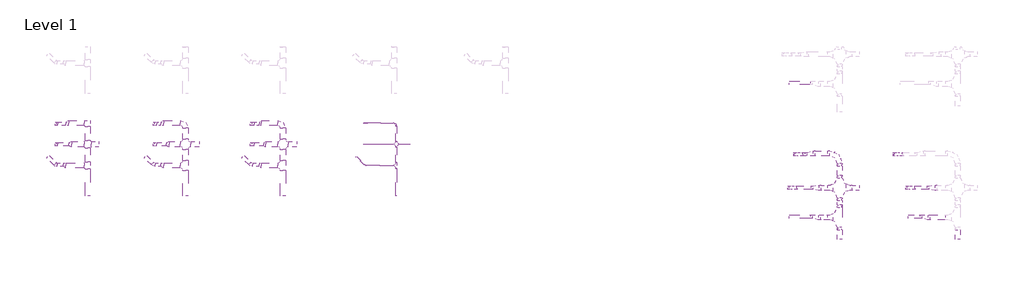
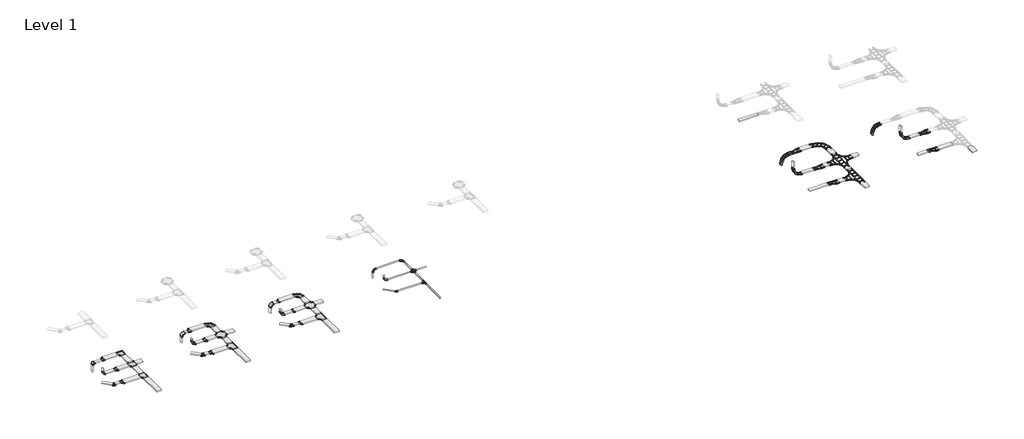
# One storey, part 1 of 42: 68 cable carrier segments, 45 cable carrier fittings.
"""IFC4 building model written with IfcOpenShell, lengths in millimetres."""

from ifc_helpers import new_model, si_unit, frame, origin, place, context, project, spatial, polyline, outline, extrude, transform, mapped, element, save
from components import cable_carrier_fitting_1_mm_805de479, cable_carrier_fitting_1_mm_529289f4, cable_carrier_fitting_1_mm_c1197fce, cable_carrier_fitting_1_mm_5924018d, cable_carrier_fitting_1_mm_d3f2b815, cable_carrier_fitting_1_mm_367de262, cable_carrier_fitting_1_mm_a7febe8f, cable_carrier_fitting_1_mm_fc54f34e, cable_carrier_fitting_1_mm_42b71fda, cable_carrier_fitting_1_mm_1f89d0ee, cable_carrier_fitting_1_mm_ffd8b238, cable_carrier_fitting_1_mm_e192c5dd, cable_carrier_fitting_1_mm_2a07449b, cable_carrier_fitting_1_mm_ec8e8cbd, cable_carrier_fitting_1_mm_52b8fae2, cable_carrier_fitting_1_mm_346cbc13, cable_carrier_fitting_1_mm_92de7dbe, cable_carrier_fitting_1_mm_02684e42, cable_carrier_fitting_1_mm_cfe8fd75, cable_carrier_fitting_1_mm_447bc4b9, cable_carrier_fitting_1_mm_be7f07a0, cable_carrier_fitting_1_mm_44e0f4b3, cable_carrier_fitting_1_5_mm_cc8ef015, cable_carrier_fitting_1_5_mm_7721eeaa, cable_carrier_fitting_1_5_mm_3523910d, cable_carrier_fitting_1_5_mm_74426db5, cable_carrier_fitting_1_5_mm_ccf48cd3, cable_carrier_fitting_1_5_mm_c053843e, cable_carrier_fitting_1_5_mm_0168b917, cable_carrier_fitting_1_5_mm_8b0a73e9, cable_carrier_fitting_1_5_mm_19f47176

model = new_model("IFC4")

# Units and contexts
model_context = context("Model", 3, world=origin())
ifc_project = project(units=[si_unit("LENGTHUNIT", "METRE", prefix="MILLI")], contexts=[model_context])

# Site, building, storey
site = spatial("IfcSite", under=ifc_project)
building = spatial("IfcBuilding", under=site)
storey = spatial("IfcBuildingStorey", under=building, Name="Level 1", Elevation=0.0)

# Cable carrier fittings
placement = place(None, origin())
cable_carrier_fitting_1_mm_shape = cable_carrier_fitting_1_mm_805de479(model_context)
element("IfcCableCarrierFitting", 1, ObjectType="BAKS_Redukcja E90 : 1 mm", at=placement, inside=storey, context=model_context, shape_type="MappedRepresentation", body=[
    mapped(cable_carrier_fitting_1_mm_shape, transform((-14922.2064802, -3637.2738582, 2750.0), x_axis=(1.0, 0.0, 0.0), y_axis=(0.0, 1.0, 0.0), z_axis=(0.0, 0.0, 1.0))),
])
cable_carrier_fitting_1_mm_2_shape = cable_carrier_fitting_1_mm_529289f4(model_context)
element("IfcCableCarrierFitting", 2, ObjectType="BAKS_Redukcja E90 : 1 mm", at=placement, inside=storey, context=model_context, shape_type="MappedRepresentation", body=[
    mapped(cable_carrier_fitting_1_mm_2_shape, transform((-15082.2064802, -2419.2826006, 2750.0), x_axis=(-1.0, 0.0, 0.0), y_axis=(0.0, -1.0, 0.0), z_axis=(0.0, 0.0, 1.0))),
])
cable_carrier_fitting_1_mm_3_shape = cable_carrier_fitting_1_mm_c1197fce(model_context)
element("IfcCableCarrierFitting", 3, ObjectType="BAKS_Redukcja E90 : 1 mm", at=placement, inside=storey, context=model_context, shape_type="MappedRepresentation", body=[
    mapped(cable_carrier_fitting_1_mm_3_shape, transform((-15082.2064802, -4867.9062708, 2750.0), x_axis=(-1.0, 0.0, 0.0), y_axis=(0.0, -1.0, 0.0), z_axis=(0.0, 0.0, 1.0))),
])
cable_carrier_fitting_1_mm_4_shape = cable_carrier_fitting_1_mm_5924018d(model_context)
element("IfcCableCarrierFitting", 4, ObjectType="BAKS_Trójnik_koryta uniwersalny : 1 mm", at=placement, inside=storey, context=model_context, shape_type="MappedRepresentation", body=[
    mapped(cable_carrier_fitting_1_mm_4_shape, transform((-25049.8264137, -4867.9062708, 2750.0), x_axis=(0.0, -1.0, 0.0), y_axis=(1.0, 0.0, 0.0), z_axis=(0.0, 0.0, 1.0))),
])
cable_carrier_fitting_1_mm_5_shape = cable_carrier_fitting_1_mm_d3f2b815(model_context)
element("IfcCableCarrierFitting", 5, ObjectType="BAKS_Czwórnik_koryta uniwersalny : 1 mm", at=placement, inside=storey, context=model_context, shape_type="MappedRepresentation", body=[
    mapped(cable_carrier_fitting_1_mm_5_shape, transform((-25049.8264137, -3637.2738582, 2750.0), x_axis=(0.0, 1.0, 0.0), y_axis=(-1.0, 0.0, 0.0), z_axis=(0.0, 0.0, 1.0))),
])
cable_carrier_fitting_1_mm_6_shape = cable_carrier_fitting_1_mm_367de262(model_context)
element("IfcCableCarrierFitting", 6, ObjectType="BAKS_Czwórnik_koryta KLIK (R140) : 1 mm", at=placement, inside=storey, context=model_context, shape_type="MappedRepresentation", body=[
    mapped(cable_carrier_fitting_1_mm_6_shape, transform((-19429.8264137, -3637.2738582, 2750.0), x_axis=(0.0, 1.0, 0.0), y_axis=(-1.0, 0.0, 0.0), z_axis=(0.0, 0.0, 1.0))),
])
cable_carrier_fitting_1_mm_7_shape = cable_carrier_fitting_1_mm_a7febe8f(model_context)
element("IfcCableCarrierFitting", 7, ObjectType="BAKS_Trójnik_koryta KLIK (R140) : 1 mm", at=placement, inside=storey, context=model_context, shape_type="MappedRepresentation", body=[
    mapped(cable_carrier_fitting_1_mm_7_shape, transform((-19429.8264137, -4867.9062708, 2750.0), x_axis=(0.0, -1.0, 0.0), y_axis=(1.0, 0.0, 0.0), z_axis=(0.0, 0.0, 1.0))),
])
cable_carrier_fitting_1_mm_8_shape = cable_carrier_fitting_1_mm_fc54f34e(model_context)
element("IfcCableCarrierFitting", 8, ObjectType="BAKS_Kolano_koryta_uniwerslane : 1 mm", at=placement, inside=storey, context=model_context, shape_type="MappedRepresentation", body=[
    mapped(cable_carrier_fitting_1_mm_8_shape, transform((-26889.8264137, -4817.9062708, 2750.0), x_axis=(0.707106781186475, -0.7071067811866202, 0.0), y_axis=(0.7071067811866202, 0.707106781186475, 0.0), z_axis=(0.0, 0.0, 1.0))),
])
cable_carrier_fitting_1_mm_9_shape = cable_carrier_fitting_1_mm_42b71fda(model_context)
element("IfcCableCarrierFitting", 9, ObjectType="BAKS_Kolano_koryta_uniwerslane : 1 mm", at=placement, inside=storey, context=model_context, shape_type="MappedRepresentation", body=[
    mapped(cable_carrier_fitting_1_mm_9_shape, transform((-25049.8264137, -2419.2826006, 2750.0), x_axis=(0.0, 1.0, 0.0), y_axis=(-1.0, 0.0, 0.0), z_axis=(0.0, 0.0, 1.0))),
])
cable_carrier_fitting_1_mm_10_shape = cable_carrier_fitting_1_mm_1f89d0ee(model_context)
element("IfcCableCarrierFitting", 10, ObjectType="BAKS_Kolano_koryta_KLIK (R140) : 1 mm", at=placement, inside=storey, context=model_context, shape_type="MappedRepresentation", body=[
    mapped(cable_carrier_fitting_1_mm_10_shape, transform((-21269.8264137, -4817.9062708, 2750.0), x_axis=(0.7071067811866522, -0.707106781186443, 0.0), y_axis=(0.707106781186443, 0.7071067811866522, 0.0), z_axis=(0.0, 0.0, 1.0))),
])
cable_carrier_fitting_1_mm_11_shape = cable_carrier_fitting_1_mm_ffd8b238(model_context)
element("IfcCableCarrierFitting", 11, ObjectType="BAKS_Kolano_koryta_KLIK (R140) : 1 mm", at=placement, inside=storey, context=model_context, shape_type="MappedRepresentation", body=[
    mapped(cable_carrier_fitting_1_mm_11_shape, transform((-19429.8264137, -2419.2826006, 2750.0), x_axis=(0.0, 1.0, 0.0), y_axis=(-1.0, 0.0, 0.0), z_axis=(0.0, 0.0, 1.0))),
])
cable_carrier_fitting_1_mm_12_shape = cable_carrier_fitting_1_mm_e192c5dd(model_context)
element("IfcCableCarrierFitting", 12, ObjectType="BAKS_Kolano_koryta E90 (R140) : 1 mm", at=placement, inside=storey, context=model_context, shape_type="MappedRepresentation", body=[
    mapped(cable_carrier_fitting_1_mm_12_shape, transform((-15662.2064802, -4817.9062708, 2750.0), x_axis=(0.7071067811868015, -0.7071067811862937, 0.0), y_axis=(0.7071067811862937, 0.7071067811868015, 0.0), z_axis=(0.0, 0.0, 1.0))),
])
element("IfcCableCarrierFitting", 13, ObjectType="BAKS_Kolano_koryta E90 (R140) : 1 mm", at=placement, inside=storey, context=model_context, shape_type="MappedRepresentation", body=[
    mapped(cable_carrier_fitting_1_mm_11_shape, transform((-13822.2064802, -2419.2826006, 2750.0), x_axis=(0.0, 1.0, 0.0), y_axis=(-1.0, 0.0, 0.0), z_axis=(0.0, 0.0, 1.0))),
])
element("IfcCableCarrierFitting", 14, ObjectType="BAKS_Czwórnik_koryta E90 (R140) : 1 mm", at=placement, inside=storey, context=model_context, shape_type="MappedRepresentation", body=[
    mapped(cable_carrier_fitting_1_mm_6_shape, transform((-13822.2064802, -3637.2738582, 2750.0), x_axis=(0.0, 1.0, 0.0), y_axis=(-1.0, 0.0, 0.0), z_axis=(0.0, 0.0, 1.0))),
])
element("IfcCableCarrierFitting", 15, ObjectType="BAKS_Trójnik_koryta E90 (R140) : 1 mm", at=placement, inside=storey, context=model_context, shape_type="MappedRepresentation", body=[
    mapped(cable_carrier_fitting_1_mm_7_shape, transform((-13822.2064802, -4867.9062708, 2750.0), x_axis=(0.0, -1.0, 0.0), y_axis=(1.0, 0.0, 0.0), z_axis=(0.0, 0.0, 1.0))),
])
cable_carrier_fitting_1_mm_13_shape = cable_carrier_fitting_1_mm_2a07449b(model_context)
element("IfcCableCarrierFitting", 16, ObjectType="BAKS_Łuk_koryta_pionowy E90 (R140)z : 1 mm", at=placement, inside=storey, context=model_context, shape_type="MappedRepresentation", body=[
    mapped(cable_carrier_fitting_1_mm_13_shape, transform((-9137.2064802, -2419.2826006, 2750.0), x_axis=(0.0, 0.0, 1.0), y_axis=(1.0, 0.0, 0.0), z_axis=(0.0, 1.0, 0.0))),
])
element("IfcCableCarrierFitting", 17, ObjectType="BAKS_Łuk_koryta_pionowy E90 (R140)w : 1 mm", at=placement, inside=storey, context=model_context, shape_type="MappedRepresentation", body=[
    mapped(cable_carrier_fitting_1_mm_13_shape, transform((-9137.2064802, -3637.2738582, 2750.0), x_axis=(0.0, 0.0, -1.0), y_axis=(1.0, 0.0, 0.0), z_axis=(0.0, -1.0, 0.0))),
])
cable_carrier_fitting_1_mm_14_shape = cable_carrier_fitting_1_mm_ec8e8cbd(model_context)
element("IfcCableCarrierFitting", 18, ObjectType="BAKS_Kolano_koryta E90 (R140) : 1 mm", at=placement, inside=storey, context=model_context, shape_type="MappedRepresentation", body=[
    mapped(cable_carrier_fitting_1_mm_14_shape, transform((-9087.2064802, -4867.9062708, 2750.0), x_axis=(0.7071067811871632, -0.707106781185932, 0.0), y_axis=(0.707106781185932, 0.7071067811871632, 0.0), z_axis=(0.0, 0.0, 1.0))),
])
cable_carrier_fitting_1_mm_15_shape = cable_carrier_fitting_1_mm_52b8fae2(model_context)
element("IfcCableCarrierFitting", 19, ObjectType="BAKS_Kolano_koryta E90 (R140) : 1 mm", at=placement, inside=storey, context=model_context, shape_type="MappedRepresentation", body=[
    mapped(cable_carrier_fitting_1_mm_15_shape, transform((-7297.2064802, -2419.2826006, 2750.0), x_axis=(0.0, 1.0, 0.0), y_axis=(-1.0, 0.0, 0.0), z_axis=(0.0, 0.0, 1.0))),
])
cable_carrier_fitting_1_mm_16_shape = cable_carrier_fitting_1_mm_346cbc13(model_context)
element("IfcCableCarrierFitting", 20, ObjectType="BAKS_Trójnik_koryta E90 (R140) : 1 mm", at=placement, inside=storey, context=model_context, shape_type="MappedRepresentation", body=[
    mapped(cable_carrier_fitting_1_mm_16_shape, transform((-7297.2064802, -4867.9062708, 2750.0), x_axis=(0.0, -1.0, 0.0), y_axis=(1.0, 0.0, 0.0), z_axis=(0.0, 0.0, 1.0))),
])
cable_carrier_fitting_1_mm_17_shape = cable_carrier_fitting_1_mm_92de7dbe(model_context)
element("IfcCableCarrierFitting", 21, ObjectType="BAKS_Czwórnik_koryta E90 (R140) : 1 mm", at=placement, inside=storey, context=model_context, shape_type="MappedRepresentation", body=[
    mapped(cable_carrier_fitting_1_mm_17_shape, transform((-7297.2064802, -3637.2738582, 2750.0), x_axis=(0.0, 1.0, 0.0), y_axis=(-1.0, 0.0, 0.0), z_axis=(0.0, 0.0, 1.0))),
])
cable_carrier_fitting_1_mm_18_shape = cable_carrier_fitting_1_mm_02684e42(model_context)
element("IfcCableCarrierFitting", 22, ObjectType="BAKS_Łuk_koryta_pionowy E90 (R140)z : 1 mm", at=placement, inside=storey, context=model_context, shape_type="MappedRepresentation", body=[
    mapped(cable_carrier_fitting_1_mm_18_shape, transform((-15662.2064802, -2469.2826006, 2750.0), x_axis=(0.0, 0.0, 1.0), y_axis=(1.0, 0.0, 0.0), z_axis=(0.0, 1.0, 0.0))),
])
element("IfcCableCarrierFitting", 23, ObjectType="BAKS_Łuk_koryta_pionowy E90 (R140)w : 1 mm", at=placement, inside=storey, context=model_context, shape_type="MappedRepresentation", body=[
    mapped(cable_carrier_fitting_1_mm_18_shape, transform((-15662.2064802, -3637.2738582, 2750.0), x_axis=(0.0, 0.0, -1.0), y_axis=(1.0, 0.0, 0.0), z_axis=(0.0, -1.0, 0.0))),
])
cable_carrier_fitting_1_mm_19_shape = cable_carrier_fitting_1_mm_cfe8fd75(model_context)
element("IfcCableCarrierFitting", 24, ObjectType="BAKS_Łuk_koryta_pionowy (R50)z : 1 mm", at=placement, inside=storey, context=model_context, shape_type="MappedRepresentation", body=[
    mapped(cable_carrier_fitting_1_mm_19_shape, transform((-26889.8264137, -2469.2826006, 2750.0), x_axis=(0.0, 0.0, 1.0), y_axis=(1.0, 0.0, 0.0), z_axis=(0.0, 1.0, 0.0))),
])
element("IfcCableCarrierFitting", 25, ObjectType="BAKS_Łuk_koryta_pionowy (R50)w : 1 mm", at=placement, inside=storey, context=model_context, shape_type="MappedRepresentation", body=[
    mapped(cable_carrier_fitting_1_mm_19_shape, transform((-26889.8264137, -3637.2738582, 2750.0), x_axis=(0.0, 0.0, -1.0), y_axis=(1.0, 0.0, 0.0), z_axis=(0.0, -1.0, 0.0))),
])
cable_carrier_fitting_1_mm_20_shape = cable_carrier_fitting_1_mm_447bc4b9(model_context)
element("IfcCableCarrierFitting", 26, ObjectType="BAKS_Redukcja KLIK : 1 mm", at=placement, inside=storey, context=model_context, shape_type="MappedRepresentation", body=[
    mapped(cable_carrier_fitting_1_mm_20_shape, transform((-20529.8264137, -3637.2738582, 2750.0), x_axis=(1.0, 0.0, 0.0), y_axis=(0.0, 1.0, 0.0), z_axis=(0.0, 0.0, 1.0))),
])
element("IfcCableCarrierFitting", 27, ObjectType="BAKS_Redukcja KLIK : 1 mm", at=placement, inside=storey, context=model_context, shape_type="MappedRepresentation", body=[
    mapped(cable_carrier_fitting_1_mm_20_shape, transform((-26149.8264137, -3637.2738582, 2750.0), x_axis=(1.0, 0.0, 0.0), y_axis=(0.0, 1.0, 0.0), z_axis=(0.0, 0.0, 1.0))),
])
cable_carrier_fitting_1_mm_21_shape = cable_carrier_fitting_1_mm_be7f07a0(model_context)
element("IfcCableCarrierFitting", 28, ObjectType="BAKS_Redukcja KLIK : 1 mm", at=placement, inside=storey, context=model_context, shape_type="MappedRepresentation", body=[
    mapped(cable_carrier_fitting_1_mm_21_shape, transform((-20689.8264137, -2419.2826006, 2750.0), x_axis=(-1.0, 0.0, 0.0), y_axis=(0.0, -1.0, 0.0), z_axis=(0.0, 0.0, 1.0))),
])
element("IfcCableCarrierFitting", 29, ObjectType="BAKS_Redukcja KLIK : 1 mm", at=placement, inside=storey, context=model_context, shape_type="MappedRepresentation", body=[
    mapped(cable_carrier_fitting_1_mm_21_shape, transform((-26149.8264137, -2419.2826006, 2750.0), x_axis=(-1.0, 0.0, 0.0), y_axis=(0.0, -1.0, 0.0), z_axis=(0.0, 0.0, 1.0))),
])
cable_carrier_fitting_1_mm_22_shape = cable_carrier_fitting_1_mm_44e0f4b3(model_context)
element("IfcCableCarrierFitting", 30, ObjectType="BAKS_Redukcja KLIK : 1 mm", at=placement, inside=storey, context=model_context, shape_type="MappedRepresentation", body=[
    mapped(cable_carrier_fitting_1_mm_22_shape, transform((-20689.8264137, -4867.9062708, 2750.0), x_axis=(-1.0, 0.0, 0.0), y_axis=(0.0, -1.0, 0.0), z_axis=(0.0, 0.0, 1.0))),
])
element("IfcCableCarrierFitting", 31, ObjectType="BAKS_Redukcja KLIK : 1 mm", at=placement, inside=storey, context=model_context, shape_type="MappedRepresentation", body=[
    mapped(cable_carrier_fitting_1_mm_22_shape, transform((-26309.8264137, -4867.9062708, 2750.0), x_axis=(-1.0, 0.0, 0.0), y_axis=(0.0, -1.0, 0.0), z_axis=(0.0, 0.0, 1.0))),
])
element("IfcCableCarrierFitting", 32, ObjectType="BAKS_Łuk_koryta_pionowy (R140)z : 1 mm", at=placement, inside=storey, context=model_context, shape_type="MappedRepresentation", body=[
    mapped(cable_carrier_fitting_1_mm_18_shape, transform((-21269.8264137, -2469.2826006, 2750.0), x_axis=(0.0, 0.0, 1.0), y_axis=(1.0, 0.0, 0.0), z_axis=(0.0, 1.0, 0.0))),
])
element("IfcCableCarrierFitting", 33, ObjectType="BAKS_Łuk_koryta_pionowy (R140)w : 1 mm", at=placement, inside=storey, context=model_context, shape_type="MappedRepresentation", body=[
    mapped(cable_carrier_fitting_1_mm_18_shape, transform((-21269.8264137, -3637.2738582, 2750.0), x_axis=(0.0, 0.0, -1.0), y_axis=(1.0, 0.0, 0.0), z_axis=(0.0, -1.0, 0.0))),
])
cable_carrier_fitting_1_5_mm_shape = cable_carrier_fitting_1_5_mm_cc8ef015(model_context)
element("IfcCableCarrierFitting", 34, ObjectType="BAKS_Łuk_pionowy_drabiny_zew E90 : 1.5 mm", at=placement, inside=storey, context=model_context, shape_type="MappedRepresentation", body=[
    mapped(cable_carrier_fitting_1_5_mm_shape, transform((15591.1450634, -4213.4535, 2750.0), x_axis=(0.0, 0.0, 1.0), y_axis=(1.0, 0.0, 0.0), z_axis=(0.0, 1.0, 0.0))),
])
element("IfcCableCarrierFitting", 35, ObjectType="BAKS_Łuk_pionowy_drabiny_zew E90 : 1.5 mm", at=placement, inside=storey, context=model_context, shape_type="MappedRepresentation", body=[
    mapped(cable_carrier_fitting_1_5_mm_shape, transform((21336.055047, -4213.4535, 2750.0), x_axis=(0.0, 0.0, 1.0), y_axis=(1.0, 0.0, 0.0), z_axis=(0.0, 1.0, 0.0))),
])
cable_carrier_fitting_1_5_mm_2_shape = cable_carrier_fitting_1_5_mm_7721eeaa(model_context)
element("IfcCableCarrierFitting", 36, ObjectType="BAKS_Łuk_pionowy_drabiny_wew E90 : 1.5 mm", at=placement, inside=storey, context=model_context, shape_type="MappedRepresentation", body=[
    mapped(cable_carrier_fitting_1_5_mm_2_shape, transform((15241.055047, -6150.2319503, 2750.0), x_axis=(0.0, 0.0, -1.0), y_axis=(1.0, 0.0, 0.0), z_axis=(0.0, -1.0, 0.0))),
])
element("IfcCableCarrierFitting", 37, ObjectType="BAKS_Łuk_pionowy_drabiny_wew E90 : 1.5 mm", at=placement, inside=storey, context=model_context, shape_type="MappedRepresentation", body=[
    mapped(cable_carrier_fitting_1_5_mm_2_shape, transform((22041.055047, -6150.2319503, 2750.0), x_axis=(0.0, 0.0, -1.0), y_axis=(1.0, 0.0, 0.0), z_axis=(0.0, -1.0, 0.0))),
])
cable_carrier_fitting_1_5_mm_3_shape = cable_carrier_fitting_1_5_mm_3523910d(model_context)
element("IfcCableCarrierFitting", 38, ObjectType="BAKS_Łuk_drabiny E90 : 1.5 mm", at=placement, inside=storey, context=model_context, shape_type="MappedRepresentation", body=[
    mapped(cable_carrier_fitting_1_5_mm_3_shape, transform((18212.7309526, -4163.4535, 2750.0), x_axis=(0.0, 1.0, 0.0), y_axis=(-1.0, 0.0, 0.0), z_axis=(0.0, 0.0, 1.0))),
])
cable_carrier_fitting_1_5_mm_4_shape = cable_carrier_fitting_1_5_mm_74426db5(model_context)
element("IfcCableCarrierFitting", 39, ObjectType="BAKS_Redukcja_drabiny E90 : 1.5 mm", at=placement, inside=storey, context=model_context, shape_type="MappedRepresentation", body=[
    mapped(cable_carrier_fitting_1_5_mm_4_shape, transform((23821.055047, -6150.2319503, 2750.0), x_axis=(-1.0, 0.0, 0.0), y_axis=(0.0, -1.0, 0.0), z_axis=(0.0, 0.0, 1.0))),
])
cable_carrier_fitting_1_5_mm_5_shape = cable_carrier_fitting_1_5_mm_ccf48cd3(model_context)
element("IfcCableCarrierFitting", 40, ObjectType="BAKS_Redukcja_drabiny E90 : 1.5 mm", at=placement, inside=storey, context=model_context, shape_type="MappedRepresentation", body=[
    mapped(cable_carrier_fitting_1_5_mm_5_shape, transform((17112.7309526, -7852.0771703, 2750.0), x_axis=(-1.0, 0.0, 0.0), y_axis=(0.0, -1.0, 0.0), z_axis=(0.0, 0.0, 1.0))),
])
element("IfcCableCarrierFitting", 41, ObjectType="BAKS_Redukcja_drabiny E90 : 1.5 mm", at=placement, inside=storey, context=model_context, shape_type="MappedRepresentation", body=[
    mapped(cable_carrier_fitting_1_5_mm_5_shape, transform((23412.7309526, -7852.0771703, 2750.0), x_axis=(-1.0, 0.0, 0.0), y_axis=(0.0, -1.0, 0.0), z_axis=(0.0, 0.0, 1.0))),
])
cable_carrier_fitting_1_5_mm_6_shape = cable_carrier_fitting_1_5_mm_c053843e(model_context)
element("IfcCableCarrierFitting", 42, ObjectType="BAKS_Redukcja_drabiny E90 : 1.5 mm", at=placement, inside=storey, context=model_context, shape_type="MappedRepresentation", body=[
    mapped(cable_carrier_fitting_1_5_mm_6_shape, transform((16541.055047, -6150.2319503, 2750.0), x_axis=(1.0, 0.0, 0.0), y_axis=(0.0, 1.0, 0.0), z_axis=(0.0, 0.0, 1.0))),
])
cable_carrier_fitting_1_5_mm_7_shape = cable_carrier_fitting_1_5_mm_0168b917(model_context)
element("IfcCableCarrierFitting", 43, ObjectType="BAKS_Redukcja_drabiny E90 : 1.5 mm", at=placement, inside=storey, context=model_context, shape_type="MappedRepresentation", body=[
    mapped(cable_carrier_fitting_1_5_mm_7_shape, transform((16212.7309526, -4213.4535, 2750.0), x_axis=(1.0, 0.0, 0.0), y_axis=(0.0, 1.0, 0.0), z_axis=(0.0, 0.0, 1.0))),
])
cable_carrier_fitting_1_5_mm_8_shape = cable_carrier_fitting_1_5_mm_8b0a73e9(model_context)
element("IfcCableCarrierFitting", 44, ObjectType="BAKS_Trójnik_drabiny E90 : 1.5 mm", at=placement, inside=storey, context=model_context, shape_type="MappedRepresentation", body=[
    mapped(cable_carrier_fitting_1_5_mm_8_shape, transform((18212.7309526, -7852.0771703, 2750.0), x_axis=(0.0, -1.0, 0.0), y_axis=(1.0, 0.0, 0.0), z_axis=(0.0, 0.0, 1.0))),
])
cable_carrier_fitting_1_5_mm_9_shape = cable_carrier_fitting_1_5_mm_19f47176(model_context)
element("IfcCableCarrierFitting", 45, ObjectType="BAKS_Czwórnik_drabiny E90 : 1.5 mm", at=placement, inside=storey, context=model_context, shape_type="MappedRepresentation", body=[
    mapped(cable_carrier_fitting_1_5_mm_9_shape, transform((18212.7309526, -6150.2319503, 2750.0), x_axis=(0.0, 1.0, 0.0), y_axis=(-1.0, 0.0, 0.0), z_axis=(0.0, 0.0, 1.0))),
])

# Cable carrier segments
element("IfcCableCarrierSegment", 46, ObjectType="BAKS - koryto kablowe H60 KLIK (KFL) - promieniowe", at=placement, inside=storey, context=model_context, shape_type="SweptSolid", body=[
    extrude(outline(polyline([(-19279.8264137, -4576.9062708), (-19579.8264137, -4576.9062708), (-19579.8264137, -3928.2738582), (-19279.8264137, -3928.2738582), (-19279.8264137, -4576.9062708)])), frame((0.0, 0.0, 2720.0), z_axis=(0.0, 0.0, 1.0), x_axis=(1.0, 0.0, 0.0)), (0.0, 0.0, 1.0), 60.0),
])
element("IfcCableCarrierSegment", 47, ObjectType="BAKS - koryto kablowe H60 KLIK (KFL) - promieniowe", at=placement, inside=storey, context=model_context, shape_type="SweptSolid", body=[
    extrude(outline(polyline([(-21239.8264137, -2569.2826006), (-21299.8264137, -2569.2826006), (-21299.8264137, -2369.2826006), (-21239.8264137, -2369.2826006), (-21239.8264137, -2569.2826006)])), frame((0.0, 0.0, 2200.0), z_axis=(0.0, 0.0, 1.0), x_axis=(1.0, 0.0, 0.0)), (0.0, 0.0, 1.0), 355.0),
])
element("IfcCableCarrierSegment", 48, ObjectType="BAKS - koryto kablowe H60 KLIK (KFL) - promieniowe", at=placement, inside=storey, context=model_context, shape_type="SweptSolid", body=[
    extrude(outline(polyline([(-20849.8264137, -2369.2826006), (-20849.8264137, -2569.2826006), (-21074.8264137, -2569.2826006), (-21074.8264137, -2369.2826006), (-20849.8264137, -2369.2826006)])), frame((0.0, 0.0, 2720.0), z_axis=(0.0, 0.0, 1.0), x_axis=(1.0, 0.0, 0.0)), (0.0, 0.0, 1.0), 60.0),
])
element("IfcCableCarrierSegment", 49, ObjectType="BAKS - koryto kablowe H60 KLIK (KFL) - promieniowe", at=placement, inside=storey, context=model_context, shape_type="SweptSolid", body=[
    extrude(outline(polyline([(-19279.8264137, -6619.2826006), (-19579.8264137, -6619.2826006), (-19579.8264137, -5158.9062708), (-19279.8264137, -5158.9062708), (-19279.8264137, -6619.2826006)])), frame((0.0, 0.0, 2720.0), z_axis=(0.0, 0.0, 1.0), x_axis=(1.0, 0.0, 0.0)), (0.0, 0.0, 1.0), 60.0),
])
element("IfcCableCarrierSegment", 50, ObjectType="BAKS - koryto kablowe H60 KLIK (KFL) - promieniowe", at=placement, inside=storey, context=model_context, shape_type="SweptSolid", body=[
    extrude(outline(polyline([(-21299.8264137, -3737.2738582), (-21299.8264137, -3537.2738582), (-21239.8264137, -3537.2738582), (-21239.8264137, -3737.2738582), (-21299.8264137, -3737.2738582)])), frame((0.0, 0.0, 2945.0), z_axis=(0.0, 0.0, 1.0), x_axis=(1.0, 0.0, 0.0)), (0.0, 0.0, 1.0), 155.0),
])
element("IfcCableCarrierSegment", 51, ObjectType="BAKS - koryto kablowe H60 KLIK (KFL) - promieniowe", at=placement, inside=storey, context=model_context, shape_type="SweptSolid", body=[
    extrude(outline(polyline([(-21074.8264137, -3737.2738582), (-21074.8264137, -3537.2738582), (-20529.8264137, -3537.2738582), (-20529.8264137, -3737.2738582), (-21074.8264137, -3737.2738582)])), frame((0.0, 0.0, 2720.0), z_axis=(0.0, 0.0, 1.0), x_axis=(1.0, 0.0, 0.0)), (0.0, 0.0, 1.0), 60.0),
])
element("IfcCableCarrierSegment", 52, ObjectType="BAKS - koryto kablowe H60 KLIK (KFL) - promieniowe", at=placement, inside=storey, context=model_context, shape_type="SweptSolid", body=[
    extrude(outline(polyline([(-21807.2275674, -4421.9264733), (-21665.8062111, -4280.5051171), (-21270.1172149, -4676.1941134), (-21411.5385711, -4817.6154696), (-21807.2275674, -4421.9264733)])), frame((0.0, 0.0, 2720.0), z_axis=(0.0, 0.0, 1.0), x_axis=(1.0, 0.0, 0.0)), (0.0, 0.0, 1.0), 60.0),
])
element("IfcCableCarrierSegment", 53, ObjectType="BAKS - koryto kablowe H60 KLIK (KFL) - promieniowe", at=placement, inside=storey, context=model_context, shape_type="SweptSolid", body=[
    extrude(outline(polyline([(-20849.8264137, -4717.9062708), (-20849.8264137, -4917.9062708), (-21169.4151587, -4917.9062708), (-21169.4151587, -4717.9062708), (-20849.8264137, -4717.9062708)])), frame((0.0, 0.0, 2720.0), z_axis=(0.0, 0.0, 1.0), x_axis=(1.0, 0.0, 0.0)), (0.0, 0.0, 1.0), 60.0),
])
element("IfcCableCarrierSegment", 54, ObjectType="BAKS - koryto kablowe H60 KLIK (KFL) - promieniowe", at=placement, inside=storey, context=model_context, shape_type="SweptSolid", body=[
    extrude(outline(polyline([(-18634.8264137, -3487.2738582), (-18634.8264137, -3787.2738582), (-19138.8264137, -3787.2738582), (-19138.8264137, -3487.2738582), (-18634.8264137, -3487.2738582)])), frame((0.0, 0.0, 2720.0), z_axis=(0.0, 0.0, 1.0), x_axis=(1.0, 0.0, 0.0)), (0.0, 0.0, 1.0), 60.0),
])
element("IfcCableCarrierSegment", 55, ObjectType="BAKS - koryto kablowe H60 KLIK (KFL) - promieniowe", at=placement, inside=storey, context=model_context, shape_type="SweptSolid", body=[
    extrude(outline(polyline([(-19720.8264137, -4717.9062708), (-19720.8264137, -5017.9062708), (-20689.8264137, -5017.9062708), (-20689.8264137, -4717.9062708), (-19720.8264137, -4717.9062708)])), frame((0.0, 0.0, 2720.0), z_axis=(0.0, 0.0, 1.0), x_axis=(1.0, 0.0, 0.0)), (0.0, 0.0, 1.0), 60.0),
])
element("IfcCableCarrierSegment", 56, ObjectType="BAKS - koryto kablowe H60 KLIK (KFL) - promieniowe", at=placement, inside=storey, context=model_context, shape_type="SweptSolid", body=[
    extrude(outline(polyline([(-20369.8264137, -3787.2738582), (-20369.8264137, -3487.2738582), (-19720.8264137, -3487.2738582), (-19720.8264137, -3787.2738582), (-20369.8264137, -3787.2738582)])), frame((0.0, 0.0, 2720.0), z_axis=(0.0, 0.0, 1.0), x_axis=(1.0, 0.0, 0.0)), (0.0, 0.0, 1.0), 60.0),
])
element("IfcCableCarrierSegment", 57, ObjectType="BAKS - koryto kablowe H60 KLIK (KFL) - promieniowe", at=placement, inside=storey, context=model_context, shape_type="SweptSolid", body=[
    extrude(outline(polyline([(-19279.8264137, -3346.2738582), (-19579.8264137, -3346.2738582), (-19579.8264137, -2710.2826006), (-19279.8264137, -2710.2826006), (-19279.8264137, -3346.2738582)])), frame((0.0, 0.0, 2720.0), z_axis=(0.0, 0.0, 1.0), x_axis=(1.0, 0.0, 0.0)), (0.0, 0.0, 1.0), 60.0),
])
element("IfcCableCarrierSegment", 58, ObjectType="BAKS - koryto kablowe H60 KLIK (KFL) - promieniowe", at=placement, inside=storey, context=model_context, shape_type="SweptSolid", body=[
    extrude(outline(polyline([(-19720.8264137, -2269.2826006), (-19720.8264137, -2569.2826006), (-20689.8264137, -2569.2826006), (-20689.8264137, -2269.2826006), (-19720.8264137, -2269.2826006)])), frame((0.0, 0.0, 2720.0), z_axis=(0.0, 0.0, 1.0), x_axis=(1.0, 0.0, 0.0)), (0.0, 0.0, 1.0), 60.0),
])
element("IfcCableCarrierSegment", 59, ObjectType="BAKS - koryto kablowe H60 KLIK (KFL) - ostre", at=placement, inside=storey, context=model_context, shape_type="SweptSolid", body=[
    extrude(outline(polyline([(-24899.8264137, -4662.9062708), (-25199.8264137, -4662.9062708), (-25199.8264137, -3842.2738582), (-24899.8264137, -3842.2738582), (-24899.8264137, -4662.9062708)])), frame((0.0, 0.0, 2720.0), z_axis=(0.0, 0.0, 1.0), x_axis=(1.0, 0.0, 0.0)), (0.0, 0.0, 1.0), 60.0),
])
element("IfcCableCarrierSegment", 60, ObjectType="BAKS - koryto kablowe H60 KLIK (KFL) - ostre", at=placement, inside=storey, context=model_context, shape_type="SweptSolid", body=[
    extrude(outline(polyline([(-26859.8264137, -2569.2826006), (-26919.8264137, -2569.2826006), (-26919.8264137, -2369.2826006), (-26859.8264137, -2369.2826006), (-26859.8264137, -2569.2826006)])), frame((0.0, 0.0, 2200.0), z_axis=(0.0, 0.0, 1.0), x_axis=(1.0, 0.0, 0.0)), (0.0, 0.0, 1.0), 445.0),
])
element("IfcCableCarrierSegment", 61, ObjectType="BAKS - koryto kablowe H60 KLIK (KFL) - ostre", at=placement, inside=storey, context=model_context, shape_type="SweptSolid", body=[
    extrude(outline(polyline([(-26309.8264137, -2369.2826006), (-26309.8264137, -2569.2826006), (-26784.8264137, -2569.2826006), (-26784.8264137, -2369.2826006), (-26309.8264137, -2369.2826006)])), frame((0.0, 0.0, 2720.0), z_axis=(0.0, 0.0, 1.0), x_axis=(1.0, 0.0, 0.0)), (0.0, 0.0, 1.0), 60.0),
])
element("IfcCableCarrierSegment", 62, ObjectType="BAKS - koryto kablowe H60 KLIK (KFL) - ostre", at=placement, inside=storey, context=model_context, shape_type="SweptSolid", body=[
    extrude(outline(polyline([(-24899.8264137, -6619.2826006), (-25199.8264137, -6619.2826006), (-25199.8264137, -5072.9062708), (-24899.8264137, -5072.9062708), (-24899.8264137, -6619.2826006)])), frame((0.0, 0.0, 2720.0), z_axis=(0.0, 0.0, 1.0), x_axis=(1.0, 0.0, 0.0)), (0.0, 0.0, 1.0), 60.0),
])
element("IfcCableCarrierSegment", 63, ObjectType="BAKS - koryto kablowe H60 KLIK (KFL) - ostre", at=placement, inside=storey, context=model_context, shape_type="SweptSolid", body=[
    extrude(outline(polyline([(-26919.8264137, -3737.2738582), (-26919.8264137, -3537.2738582), (-26859.8264137, -3537.2738582), (-26859.8264137, -3737.2738582), (-26919.8264137, -3737.2738582)])), frame((0.0, 0.0, 2855.0), z_axis=(0.0, 0.0, 1.0), x_axis=(1.0, 0.0, 0.0)), (0.0, 0.0, 1.0), 245.0),
])
element("IfcCableCarrierSegment", 64, ObjectType="BAKS - koryto kablowe H60 KLIK (KFL) - ostre", at=placement, inside=storey, context=model_context, shape_type="SweptSolid", body=[
    extrude(outline(polyline([(-26784.8264137, -3737.2738582), (-26784.8264137, -3537.2738582), (-26149.8264137, -3537.2738582), (-26149.8264137, -3737.2738582), (-26784.8264137, -3737.2738582)])), frame((0.0, 0.0, 2720.0), z_axis=(0.0, 0.0, 1.0), x_axis=(1.0, 0.0, 0.0)), (0.0, 0.0, 1.0), 60.0),
])
element("IfcCableCarrierSegment", 65, ObjectType="BAKS - koryto kablowe H60 KLIK (KFL) - ostre", at=placement, inside=storey, context=model_context, shape_type="SweptSolid", body=[
    extrude(outline(polyline([(-27427.2275674, -4421.9264733), (-27285.8062111, -4280.5051171), (-26865.2212913, -4701.090037), (-27006.6426475, -4842.5113932), (-27427.2275674, -4421.9264733)])), frame((0.0, 0.0, 2720.0), z_axis=(0.0, 0.0, 1.0), x_axis=(1.0, 0.0, 0.0)), (0.0, 0.0, 1.0), 60.0),
])
element("IfcCableCarrierSegment", 66, ObjectType="BAKS - koryto kablowe H60 KLIK (KFL) - ostre", at=placement, inside=storey, context=model_context, shape_type="SweptSolid", body=[
    extrude(outline(polyline([(-26469.8264137, -4717.9062708), (-26469.8264137, -4917.9062708), (-26824.6233115, -4917.9062708), (-26824.6233115, -4717.9062708), (-26469.8264137, -4717.9062708)])), frame((0.0, 0.0, 2720.0), z_axis=(0.0, 0.0, 1.0), x_axis=(1.0, 0.0, 0.0)), (0.0, 0.0, 1.0), 60.0),
])
element("IfcCableCarrierSegment", 67, ObjectType="BAKS - koryto kablowe H60 KLIK (KFL) - ostre", at=placement, inside=storey, context=model_context, shape_type="SweptSolid", body=[
    extrude(outline(polyline([(-24427.3264137, -3487.2738582), (-24427.3264137, -3787.2738582), (-24844.8264137, -3787.2738582), (-24844.8264137, -3487.2738582), (-24427.3264137, -3487.2738582)])), frame((0.0, 0.0, 2720.0), z_axis=(0.0, 0.0, 1.0), x_axis=(1.0, 0.0, 0.0)), (0.0, 0.0, 1.0), 60.0),
])
element("IfcCableCarrierSegment", 68, ObjectType="BAKS - koryto kablowe H60 KLIK (KFL) - ostre", at=placement, inside=storey, context=model_context, shape_type="SweptSolid", body=[
    extrude(outline(polyline([(-25254.8264137, -4717.9062708), (-25254.8264137, -5017.9062708), (-26309.8264137, -5017.9062708), (-26309.8264137, -4717.9062708), (-25254.8264137, -4717.9062708)])), frame((0.0, 0.0, 2720.0), z_axis=(0.0, 0.0, 1.0), x_axis=(1.0, 0.0, 0.0)), (0.0, 0.0, 1.0), 60.0),
])
element("IfcCableCarrierSegment", 69, ObjectType="BAKS - koryto kablowe H60 KLIK (KFL) - ostre", at=placement, inside=storey, context=model_context, shape_type="SweptSolid", body=[
    extrude(outline(polyline([(-25989.8264137, -3787.2738582), (-25989.8264137, -3487.2738582), (-25254.8264137, -3487.2738582), (-25254.8264137, -3787.2738582), (-25989.8264137, -3787.2738582)])), frame((0.0, 0.0, 2720.0), z_axis=(0.0, 0.0, 1.0), x_axis=(1.0, 0.0, 0.0)), (0.0, 0.0, 1.0), 60.0),
])
element("IfcCableCarrierSegment", 70, ObjectType="BAKS - koryto kablowe H60 KLIK (KFL) - ostre", at=placement, inside=storey, context=model_context, shape_type="SweptSolid", body=[
    extrude(outline(polyline([(-24899.8264137, -3432.2738582), (-25199.8264137, -3432.2738582), (-25199.8264137, -2625.2826006), (-24899.8264137, -2625.2826006), (-24899.8264137, -3432.2738582)])), frame((0.0, 0.0, 2720.0), z_axis=(0.0, 0.0, 1.0), x_axis=(1.0, 0.0, 0.0)), (0.0, 0.0, 1.0), 60.0),
])
element("IfcCableCarrierSegment", 71, ObjectType="BAKS - koryto kablowe H60 KLIK (KFL) - ostre", at=placement, inside=storey, context=model_context, shape_type="SweptSolid", body=[
    extrude(outline(polyline([(-25255.8264137, -2269.2826006), (-25255.8264137, -2569.2826006), (-26149.8264137, -2569.2826006), (-26149.8264137, -2269.2826006), (-25255.8264137, -2269.2826006)])), frame((0.0, 0.0, 2720.0), z_axis=(0.0, 0.0, 1.0), x_axis=(1.0, 0.0, 0.0)), (0.0, 0.0, 1.0), 60.0),
])
element("IfcCableCarrierSegment", 72, ObjectType="BAKS - koryto kablowe E90 (KGJ/KGOJ) - promieniowe", at=placement, inside=storey, context=model_context, shape_type="SweptSolid", body=[
    extrude(outline(polyline([(-13672.2064802, -4576.9062708), (-13972.2064802, -4576.9062708), (-13972.2064802, -3928.2738582), (-13672.2064802, -3928.2738582), (-13672.2064802, -4576.9062708)])), frame((0.0, 0.0, 2720.0), z_axis=(0.0, 0.0, 1.0), x_axis=(1.0, 0.0, 0.0)), (0.0, 0.0, 1.0), 60.0),
])
element("IfcCableCarrierSegment", 73, ObjectType="BAKS - koryto kablowe E90 (KGJ/KGOJ) - promieniowe", at=placement, inside=storey, context=model_context, shape_type="SweptSolid", body=[
    extrude(outline(polyline([(-15632.2064802, -2569.2826006), (-15692.2064802, -2569.2826006), (-15692.2064802, -2369.2826006), (-15632.2064802, -2369.2826006), (-15632.2064802, -2569.2826006)])), frame((0.0, 0.0, 2200.0), z_axis=(0.0, 0.0, 1.0), x_axis=(1.0, 0.0, 0.0)), (0.0, 0.0, 1.0), 355.0),
])
element("IfcCableCarrierSegment", 74, ObjectType="BAKS - koryto kablowe E90 (KGJ/KGOJ) - promieniowe", at=placement, inside=storey, context=model_context, shape_type="SweptSolid", body=[
    extrude(outline(polyline([(-15177.2064802, -2369.2826006), (-15177.2064802, -2569.2826006), (-15467.2064802, -2569.2826006), (-15467.2064802, -2369.2826006), (-15177.2064802, -2369.2826006)])), frame((0.0, 0.0, 2720.0), z_axis=(0.0, 0.0, 1.0), x_axis=(1.0, 0.0, 0.0)), (0.0, 0.0, 1.0), 60.0),
])
element("IfcCableCarrierSegment", 75, ObjectType="BAKS - koryto kablowe E90 (KGJ/KGOJ) - promieniowe", at=placement, inside=storey, context=model_context, shape_type="SweptSolid", body=[
    extrude(outline(polyline([(-13672.2064802, -6619.2826006), (-13972.2064802, -6619.2826006), (-13972.2064802, -5158.9062708), (-13672.2064802, -5158.9062708), (-13672.2064802, -6619.2826006)])), frame((0.0, 0.0, 2720.0), z_axis=(0.0, 0.0, 1.0), x_axis=(1.0, 0.0, 0.0)), (0.0, 0.0, 1.0), 60.0),
])
element("IfcCableCarrierSegment", 76, ObjectType="BAKS - koryto kablowe E90 (KGJ/KGOJ) - promieniowe", at=placement, inside=storey, context=model_context, shape_type="SweptSolid", body=[
    extrude(outline(polyline([(-15692.2064802, -3737.2738582), (-15692.2064802, -3537.2738582), (-15632.2064802, -3537.2738582), (-15632.2064802, -3737.2738582), (-15692.2064802, -3737.2738582)])), frame((0.0, 0.0, 2945.0), z_axis=(0.0, 0.0, 1.0), x_axis=(1.0, 0.0, 0.0)), (0.0, 0.0, 1.0), 155.0),
])
element("IfcCableCarrierSegment", 77, ObjectType="BAKS - koryto kablowe E90 (KGJ/KGOJ) - promieniowe", at=placement, inside=storey, context=model_context, shape_type="SweptSolid", body=[
    extrude(outline(polyline([(-15467.2064802, -3737.2738582), (-15467.2064802, -3537.2738582), (-14922.2064802, -3537.2738582), (-14922.2064802, -3737.2738582), (-15467.2064802, -3737.2738582)])), frame((0.0, 0.0, 2720.0), z_axis=(0.0, 0.0, 1.0), x_axis=(1.0, 0.0, 0.0)), (0.0, 0.0, 1.0), 60.0),
])
element("IfcCableCarrierSegment", 78, ObjectType="BAKS - koryto kablowe E90 (KGJ/KGOJ) - promieniowe", at=placement, inside=storey, context=model_context, shape_type="SweptSolid", body=[
    extrude(outline(polyline([(-16199.6076339, -4421.9264733), (-16058.1862777, -4280.5051171), (-15662.4972814, -4676.1941134), (-15803.9186376, -4817.6154696), (-16199.6076339, -4421.9264733)])), frame((0.0, 0.0, 2720.0), z_axis=(0.0, 0.0, 1.0), x_axis=(1.0, 0.0, 0.0)), (0.0, 0.0, 1.0), 60.0),
])
element("IfcCableCarrierSegment", 79, ObjectType="BAKS - koryto kablowe E90 (KGJ/KGOJ) - promieniowe", at=placement, inside=storey, context=model_context, shape_type="SweptSolid", body=[
    extrude(outline(polyline([(-15177.2064802, -4717.9062708), (-15177.2064802, -4917.9062708), (-15561.7952252, -4917.9062708), (-15561.7952252, -4717.9062708), (-15177.2064802, -4717.9062708)])), frame((0.0, 0.0, 2720.0), z_axis=(0.0, 0.0, 1.0), x_axis=(1.0, 0.0, 0.0)), (0.0, 0.0, 1.0), 60.0),
])
element("IfcCableCarrierSegment", 80, ObjectType="BAKS - koryto kablowe E90 (KGJ/KGOJ) - promieniowe", at=placement, inside=storey, context=model_context, shape_type="SweptSolid", body=[
    extrude(outline(polyline([(-13027.2064802, -3487.2738582), (-13027.2064802, -3787.2738582), (-13531.2064802, -3787.2738582), (-13531.2064802, -3487.2738582), (-13027.2064802, -3487.2738582)])), frame((0.0, 0.0, 2720.0), z_axis=(0.0, 0.0, 1.0), x_axis=(1.0, 0.0, 0.0)), (0.0, 0.0, 1.0), 60.0),
])
element("IfcCableCarrierSegment", 81, ObjectType="BAKS - koryto kablowe E90 (KGJ/KGOJ) - promieniowe", at=placement, inside=storey, context=model_context, shape_type="SweptSolid", body=[
    extrude(outline(polyline([(-14113.2064802, -4717.9062708), (-14113.2064802, -5017.9062708), (-15082.2064802, -5017.9062708), (-15082.2064802, -4717.9062708), (-14113.2064802, -4717.9062708)])), frame((0.0, 0.0, 2720.0), z_axis=(0.0, 0.0, 1.0), x_axis=(1.0, 0.0, 0.0)), (0.0, 0.0, 1.0), 60.0),
])
element("IfcCableCarrierSegment", 82, ObjectType="BAKS - koryto kablowe E90 (KGJ/KGOJ) - promieniowe", at=placement, inside=storey, context=model_context, shape_type="SweptSolid", body=[
    extrude(outline(polyline([(-14827.2064802, -3787.2738582), (-14827.2064802, -3487.2738582), (-14113.2064802, -3487.2738582), (-14113.2064802, -3787.2738582), (-14827.2064802, -3787.2738582)])), frame((0.0, 0.0, 2720.0), z_axis=(0.0, 0.0, 1.0), x_axis=(1.0, 0.0, 0.0)), (0.0, 0.0, 1.0), 60.0),
])
element("IfcCableCarrierSegment", 83, ObjectType="BAKS - koryto kablowe E90 (KGJ/KGOJ) - promieniowe", at=placement, inside=storey, context=model_context, shape_type="SweptSolid", body=[
    extrude(outline(polyline([(-13672.2064802, -3346.2738582), (-13972.2064802, -3346.2738582), (-13972.2064802, -2710.2826006), (-13672.2064802, -2710.2826006), (-13672.2064802, -3346.2738582)])), frame((0.0, 0.0, 2720.0), z_axis=(0.0, 0.0, 1.0), x_axis=(1.0, 0.0, 0.0)), (0.0, 0.0, 1.0), 60.0),
])
element("IfcCableCarrierSegment", 84, ObjectType="BAKS - koryto kablowe E90 (KGJ/KGOJ) - promieniowe", at=placement, inside=storey, context=model_context, shape_type="SweptSolid", body=[
    extrude(outline(polyline([(-14113.2064802, -2269.2826006), (-14113.2064802, -2569.2826006), (-15082.2064802, -2569.2826006), (-15082.2064802, -2269.2826006), (-14113.2064802, -2269.2826006)])), frame((0.0, 0.0, 2720.0), z_axis=(0.0, 0.0, 1.0), x_axis=(1.0, 0.0, 0.0)), (0.0, 0.0, 1.0), 60.0),
])
element("IfcCableCarrierSegment", 85, ObjectType="BAKS - drabina kablowa E90 (DGOD)", at=placement, inside=storey, context=model_context, shape_type="SweptSolid", body=[
    extrude(outline(polyline([(16512.7309526, -2.0771703), (16512.7309526, -202.0771703), (15312.7309526, -202.0771703), (15312.7309526, -2.0771703), (16512.7309526, -2.0771703)])), frame((0.0, 0.0, 2720.0), z_axis=(0.0, 0.0, 1.0), x_axis=(1.0, 0.0, 0.0)), (0.0, 0.0, 1.0), 60.0),
])
element("IfcCableCarrierSegment", 86, ObjectType="BAKS - drabina kablowa E90 (DUD)", at=placement, inside=storey, context=model_context, shape_type="SweptSolid", body=[
    extrude(outline(polyline([(18362.7309526, -7132.0771703), (18062.7309526, -7132.0771703), (18062.7309526, -6870.2319503), (18362.7309526, -6870.2319503), (18362.7309526, -7132.0771703)])), frame((0.0, 0.0, 2720.0), z_axis=(0.0, 0.0, 1.0), x_axis=(1.0, 0.0, 0.0)), (0.0, 0.0, 1.0), 60.0),
])
element("IfcCableCarrierSegment", 87, ObjectType="BAKS - drabina kablowa E90 (DUD)", at=placement, inside=storey, context=model_context, shape_type="SweptSolid", body=[
    extrude(outline(polyline([(15621.1450634, -4313.4535), (15561.1450634, -4313.4535), (15561.1450634, -4113.4535), (15621.1450634, -4113.4535), (15621.1450634, -4313.4535)])), frame((0.0, 0.0, 2200.0), z_axis=(0.0, 0.0, 1.0), x_axis=(1.0, 0.0, 0.0)), (0.0, 0.0, 1.0), 20.0),
])
element("IfcCableCarrierSegment", 88, ObjectType="BAKS - drabina kablowa E90 (DUD)", at=placement, inside=storey, context=model_context, shape_type="SweptSolid", body=[
    extrude(outline(polyline([(16212.7309526, -4113.4535), (16212.7309526, -4313.4535), (16121.1450634, -4313.4535), (16121.1450634, -4113.4535), (16212.7309526, -4113.4535)])), frame((0.0, 0.0, 2720.0), z_axis=(0.0, 0.0, 1.0), x_axis=(1.0, 0.0, 0.0)), (0.0, 0.0, 1.0), 60.0),
])
element("IfcCableCarrierSegment", 89, ObjectType="BAKS - drabina kablowa E90 (DUD)", at=placement, inside=storey, context=model_context, shape_type="SweptSolid", body=[
    extrude(outline(polyline([(18362.7309526, -9123.4535), (18062.7309526, -9123.4535), (18062.7309526, -8572.0771703), (18362.7309526, -8572.0771703), (18362.7309526, -9123.4535)])), frame((0.0, 0.0, 2720.0), z_axis=(0.0, 0.0, 1.0), x_axis=(1.0, 0.0, 0.0)), (0.0, 0.0, 1.0), 60.0),
])
element("IfcCableCarrierSegment", 90, ObjectType="BAKS - drabina kablowa E90 (DUD)", at=placement, inside=storey, context=model_context, shape_type="SweptSolid", body=[
    extrude(outline(polyline([(19341.055047, -6000.2319503), (19341.055047, -6300.2319503), (18932.7309526, -6300.2319503), (18932.7309526, -6000.2319503), (19341.055047, -6000.2319503)])), frame((0.0, 0.0, 2720.0), z_axis=(0.0, 0.0, 1.0), x_axis=(1.0, 0.0, 0.0)), (0.0, 0.0, 1.0), 60.0),
])
element("IfcCableCarrierSegment", 91, ObjectType="BAKS - drabina kablowa E90 (DUD)", at=placement, inside=storey, context=model_context, shape_type="SweptSolid", body=[
    extrude(outline(polyline([(15211.055047, -6250.2319503), (15211.055047, -6050.2319503), (15271.055047, -6050.2319503), (15271.055047, -6250.2319503), (15211.055047, -6250.2319503)])), frame((0.0, 0.0, 3280.0), z_axis=(0.0, 0.0, 1.0), x_axis=(1.0, 0.0, 0.0)), (0.0, 0.0, 1.0), 420.0),
])
element("IfcCableCarrierSegment", 92, ObjectType="BAKS - drabina kablowa E90 (DUD)", at=placement, inside=storey, context=model_context, shape_type="SweptSolid", body=[
    extrude(outline(polyline([(15771.055047, -6250.2319503), (15771.055047, -6050.2319503), (16541.055047, -6050.2319503), (16541.055047, -6250.2319503), (15771.055047, -6250.2319503)])), frame((0.0, 0.0, 2720.0), z_axis=(0.0, 0.0, 1.0), x_axis=(1.0, 0.0, 0.0)), (0.0, 0.0, 1.0), 60.0),
])
element("IfcCableCarrierSegment", 93, ObjectType="BAKS - drabina kablowa E90 (DUD)", at=placement, inside=storey, context=model_context, shape_type="SweptSolid", body=[
    extrude(outline(polyline([(16512.7309526, -7702.0771703), (16512.7309526, -7902.0771703), (15312.7309526, -7902.0771703), (15312.7309526, -7702.0771703), (16512.7309526, -7702.0771703)])), frame((0.0, 0.0, 2720.0), z_axis=(0.0, 0.0, 1.0), x_axis=(1.0, 0.0, 0.0)), (0.0, 0.0, 1.0), 60.0),
])
element("IfcCableCarrierSegment", 94, ObjectType="BAKS - drabina kablowa E90 (DUD)", at=placement, inside=storey, context=model_context, shape_type="SweptSolid", body=[
    extrude(outline(polyline([(17492.7309526, -7702.0771703), (17492.7309526, -8002.0771703), (17112.7309526, -8002.0771703), (17112.7309526, -7702.0771703), (17492.7309526, -7702.0771703)])), frame((0.0, 0.0, 2720.0), z_axis=(0.0, 0.0, 1.0), x_axis=(1.0, 0.0, 0.0)), (0.0, 0.0, 1.0), 60.0),
])
element("IfcCableCarrierSegment", 95, ObjectType="BAKS - drabina kablowa E90 (DUD)", at=placement, inside=storey, context=model_context, shape_type="SweptSolid", body=[
    extrude(outline(polyline([(17141.055047, -6300.2319503), (17141.055047, -6000.2319503), (17492.7309526, -6000.2319503), (17492.7309526, -6300.2319503), (17141.055047, -6300.2319503)])), frame((0.0, 0.0, 2720.0), z_axis=(0.0, 0.0, 1.0), x_axis=(1.0, 0.0, 0.0)), (0.0, 0.0, 1.0), 60.0),
])
element("IfcCableCarrierSegment", 96, ObjectType="BAKS - drabina kablowa E90 (DUD)", at=placement, inside=storey, context=model_context, shape_type="SweptSolid", body=[
    extrude(outline(polyline([(18362.7309526, -5430.2319503), (18062.7309526, -5430.2319503), (18062.7309526, -4883.4535), (18362.7309526, -4883.4535), (18362.7309526, -5430.2319503)])), frame((0.0, 0.0, 2720.0), z_axis=(0.0, 0.0, 1.0), x_axis=(1.0, 0.0, 0.0)), (0.0, 0.0, 1.0), 60.0),
])
element("IfcCableCarrierSegment", 97, ObjectType="BAKS - drabina kablowa E90 (DUD)", at=placement, inside=storey, context=model_context, shape_type="SweptSolid", body=[
    extrude(outline(polyline([(17492.7309526, -4013.4535), (17492.7309526, -4313.4535), (16812.7309526, -4313.4535), (16812.7309526, -4013.4535), (17492.7309526, -4013.4535)])), frame((0.0, 0.0, 2720.0), z_axis=(0.0, 0.0, 1.0), x_axis=(1.0, 0.0, 0.0)), (0.0, 0.0, 1.0), 60.0),
])
element("IfcCableCarrierSegment", 98, ObjectType="BAKS - drabina kablowa E90 (DUP)", at=placement, inside=storey, context=model_context, shape_type="SweptSolid", body=[
    extrude(outline(polyline([(21366.055047, -4313.4535), (21306.055047, -4313.4535), (21306.055047, -4113.4535), (21366.055047, -4113.4535), (21366.055047, -4313.4535)])), frame((0.0, 0.0, 2200.0), z_axis=(0.0, 0.0, 1.0), x_axis=(1.0, 0.0, 0.0)), (0.0, 0.0, 1.0), 20.0),
])
element("IfcCableCarrierSegment", 99, ObjectType="BAKS - drabina kablowa E90 (DUP)", at=placement, inside=storey, context=model_context, shape_type="SweptSolid", body=[
    extrude(outline(polyline([(25162.7309526, -9123.4535), (24862.7309526, -9123.4535), (24862.7309526, -8572.0771703), (25162.7309526, -8572.0771703), (25162.7309526, -9123.4535)])), frame((0.0, 0.0, 2720.0), z_axis=(0.0, 0.0, 1.0), x_axis=(1.0, 0.0, 0.0)), (0.0, 0.0, 1.0), 60.0),
])
element("IfcCableCarrierSegment", 100, ObjectType="BAKS - drabina kablowa E90 (DUP)", at=placement, inside=storey, context=model_context, shape_type="SweptSolid", body=[
    extrude(outline(polyline([(22011.055047, -6250.2319503), (22011.055047, -6050.2319503), (22071.055047, -6050.2319503), (22071.055047, -6250.2319503), (22011.055047, -6250.2319503)])), frame((0.0, 0.0, 3280.0), z_axis=(0.0, 0.0, 1.0), x_axis=(1.0, 0.0, 0.0)), (0.0, 0.0, 1.0), 420.0),
])
element("IfcCableCarrierSegment", 101, ObjectType="BAKS - drabina kablowa E90 (DUP)", at=placement, inside=storey, context=model_context, shape_type="SweptSolid", body=[
    extrude(outline(polyline([(23221.055047, -6050.2319503), (23221.055047, -6250.2319503), (22571.055047, -6250.2319503), (22571.055047, -6050.2319503), (23221.055047, -6050.2319503)])), frame((0.0, 0.0, 2720.0), z_axis=(0.0, 0.0, 1.0), x_axis=(1.0, 0.0, 0.0)), (0.0, 0.0, 1.0), 60.0),
])
element("IfcCableCarrierSegment", 102, ObjectType="BAKS - drabina kablowa E90 (DUP)", at=placement, inside=storey, context=model_context, shape_type="SweptSolid", body=[
    extrude(outline(polyline([(22812.7309526, -7702.0771703), (22812.7309526, -7902.0771703), (22172.7309526, -7902.0771703), (22172.7309526, -7702.0771703), (22812.7309526, -7702.0771703)])), frame((0.0, 0.0, 2720.0), z_axis=(0.0, 0.0, 1.0), x_axis=(1.0, 0.0, 0.0)), (0.0, 0.0, 1.0), 60.0),
])
element("IfcCableCarrierSegment", 103, ObjectType="BAKS - drabina kablowa E90 (DUP)", at=placement, inside=storey, context=model_context, shape_type="SweptSolid", body=[
    extrude(outline(polyline([(24292.7309526, -7702.0771703), (24292.7309526, -8002.0771703), (23412.7309526, -8002.0771703), (23412.7309526, -7702.0771703), (24292.7309526, -7702.0771703)])), frame((0.0, 0.0, 2720.0), z_axis=(0.0, 0.0, 1.0), x_axis=(1.0, 0.0, 0.0)), (0.0, 0.0, 1.0), 60.0),
])
element("IfcCableCarrierSegment", 104, ObjectType="BAKS - koryto kablowe E90 (KGJ/KGOJ) - promieniowe", at=placement, inside=storey, context=model_context, shape_type="SweptSolid", body=[
    extrude(outline(polyline([(-7272.2064802, -4701.9062708), (-7322.2064802, -4701.9062708), (-7322.2064802, -3803.2738582), (-7272.2064802, -3803.2738582), (-7272.2064802, -4701.9062708)])), frame((0.0, 0.0, 2720.0), z_axis=(0.0, 0.0, 1.0), x_axis=(1.0, 0.0, 0.0)), (0.0, 0.0, 1.0), 60.0),
])
element("IfcCableCarrierSegment", 105, ObjectType="BAKS - koryto kablowe E90 (KGJ/KGOJ) - promieniowe", at=placement, inside=storey, context=model_context, shape_type="SweptSolid", body=[
    extrude(outline(polyline([(-9107.2064802, -2444.2826006), (-9167.2064802, -2444.2826006), (-9167.2064802, -2394.2826006), (-9107.2064802, -2394.2826006), (-9107.2064802, -2444.2826006)])), frame((0.0, 0.0, 2200.0), z_axis=(0.0, 0.0, 1.0), x_axis=(1.0, 0.0, 0.0)), (0.0, 0.0, 1.0), 355.0),
])
element("IfcCableCarrierSegment", 106, ObjectType="BAKS - koryto kablowe E90 (KGJ/KGOJ) - promieniowe", at=placement, inside=storey, context=model_context, shape_type="SweptSolid", body=[
    extrude(outline(polyline([(-7272.2064802, -6619.2826006), (-7322.2064802, -6619.2826006), (-7322.2064802, -5033.9062708), (-7272.2064802, -5033.9062708), (-7272.2064802, -6619.2826006)])), frame((0.0, 0.0, 2720.0), z_axis=(0.0, 0.0, 1.0), x_axis=(1.0, 0.0, 0.0)), (0.0, 0.0, 1.0), 60.0),
])
element("IfcCableCarrierSegment", 107, ObjectType="BAKS - koryto kablowe E90 (KGJ/KGOJ) - promieniowe", at=placement, inside=storey, context=model_context, shape_type="SweptSolid", body=[
    extrude(outline(polyline([(-9167.2064802, -3662.2738582), (-9167.2064802, -3612.2738582), (-9107.2064802, -3612.2738582), (-9107.2064802, -3662.2738582), (-9167.2064802, -3662.2738582)])), frame((0.0, 0.0, 2945.0), z_axis=(0.0, 0.0, 1.0), x_axis=(1.0, 0.0, 0.0)), (0.0, 0.0, 1.0), 155.0),
])
element("IfcCableCarrierSegment", 108, ObjectType="BAKS - koryto kablowe E90 (KGJ/KGOJ) - promieniowe", at=placement, inside=storey, context=model_context, shape_type="SweptSolid", body=[
    extrude(outline(polyline([(-8942.2064802, -3662.2738582), (-8942.2064802, -3612.2738582), (-7463.2064802, -3612.2738582), (-7463.2064802, -3662.2738582), (-8942.2064802, -3662.2738582)])), frame((0.0, 0.0, 2720.0), z_axis=(0.0, 0.0, 1.0), x_axis=(1.0, 0.0, 0.0)), (0.0, 0.0, 1.0), 60.0),
])
element("IfcCableCarrierSegment", 109, ObjectType="BAKS - koryto kablowe E90 (KGJ/KGOJ) - promieniowe", at=placement, inside=storey, context=model_context, shape_type="SweptSolid", body=[
    extrude(outline(polyline([(-9621.5746253, -4368.8934647), (-9586.2192862, -4333.5381257), (-9118.5632985, -4801.1941134), (-9153.9186376, -4836.5494524), (-9621.5746253, -4368.8934647)])), frame((0.0, 0.0, 2720.0), z_axis=(0.0, 0.0, 1.0), x_axis=(1.0, 0.0, 0.0)), (0.0, 0.0, 1.0), 60.0),
])
element("IfcCableCarrierSegment", 110, ObjectType="BAKS - koryto kablowe E90 (KGJ/KGOJ) - promieniowe", at=placement, inside=storey, context=model_context, shape_type="SweptSolid", body=[
    extrude(outline(polyline([(-9017.8612424, -4892.9062708), (-9017.8612424, -4842.9062708), (-7463.2064802, -4842.9062708), (-7463.2064802, -4892.9062708), (-9017.8612424, -4892.9062708)])), frame((0.0, 0.0, 2720.0), z_axis=(0.0, 0.0, 1.0), x_axis=(1.0, 0.0, 0.0)), (0.0, 0.0, 1.0), 60.0),
])
element("IfcCableCarrierSegment", 111, ObjectType="BAKS - koryto kablowe E90 (KGJ/KGOJ) - promieniowe", at=placement, inside=storey, context=model_context, shape_type="SweptSolid", body=[
    extrude(outline(polyline([(-6502.2064802, -3612.2738582), (-6502.2064802, -3662.2738582), (-7131.2064802, -3662.2738582), (-7131.2064802, -3612.2738582), (-6502.2064802, -3612.2738582)])), frame((0.0, 0.0, 2720.0), z_axis=(0.0, 0.0, 1.0), x_axis=(1.0, 0.0, 0.0)), (0.0, 0.0, 1.0), 60.0),
])
element("IfcCableCarrierSegment", 112, ObjectType="BAKS - koryto kablowe E90 (KGJ/KGOJ) - promieniowe", at=placement, inside=storey, context=model_context, shape_type="SweptSolid", body=[
    extrude(outline(polyline([(-7272.2064802, -3471.2738582), (-7322.2064802, -3471.2738582), (-7322.2064802, -2585.2826006), (-7272.2064802, -2585.2826006), (-7272.2064802, -3471.2738582)])), frame((0.0, 0.0, 2720.0), z_axis=(0.0, 0.0, 1.0), x_axis=(1.0, 0.0, 0.0)), (0.0, 0.0, 1.0), 60.0),
])
element("IfcCableCarrierSegment", 113, ObjectType="BAKS - koryto kablowe E90 (KGJ/KGOJ) - promieniowe", at=placement, inside=storey, context=model_context, shape_type="SweptSolid", body=[
    extrude(outline(polyline([(-7463.2064802, -2394.2826006), (-7463.2064802, -2444.2826006), (-8942.2064802, -2444.2826006), (-8942.2064802, -2394.2826006), (-7463.2064802, -2394.2826006)])), frame((0.0, 0.0, 2720.0), z_axis=(0.0, 0.0, 1.0), x_axis=(1.0, 0.0, 0.0)), (0.0, 0.0, 1.0), 60.0),
])

save(model, "model.ifc")
